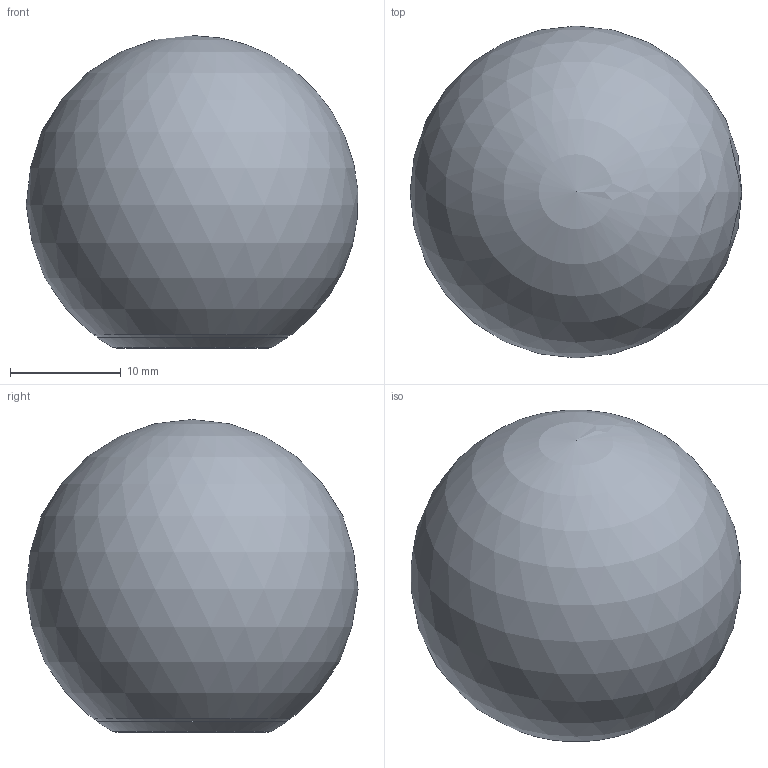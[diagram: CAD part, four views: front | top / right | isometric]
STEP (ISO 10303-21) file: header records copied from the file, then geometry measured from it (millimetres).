
FILE_DESCRIPTION(('Open CASCADE Model'),'2;1');
FILE_NAME('FL-BALL-S-knob-30','2026-10-19T21:23:54',('Author'),( 'Open CASCADE'),'Open CASCADE STEP processor 8.0','build123d', 'Unknown');
FILE_SCHEMA(('AUTOMOTIVE_DESIGN { 1 0 10303 214 1 1 1 1 }'));
Length unit declared in the file: millimetre
Products named in the file (2): FL-BALL-S-knob-30; brass_FL-BALLS30__k
Assembly tree (1 placements, depth 2):
  FL-BALL-S-knob-30
    brass_FL-BALLS30__k
Bounding box: 29.96 x 29.99 x 28.27 mm (x, y, z)
Volume: 13889.2 mm3; surface area: 2950.6 mm2
Topology: 1 solids, 1 shells, 11 faces, 19 edges, 11 vertices
Faces by surface type: plane 3, cylinder 3, sphere 2, cone 2, bspline 1
Full cylindrical faces by diameter (mm): 3.3 x1, 5.1 x1, 17.866 x1
Entity records: 621 total; most frequent: CARTESIAN_POINT 196, DIRECTION 81, ORIENTED_EDGE 36, PCURVE 36, DEFINITIONAL_REPRESENTATION 36, LINE 33, VECTOR 33, AXIS2_PLACEMENT_3D 22
